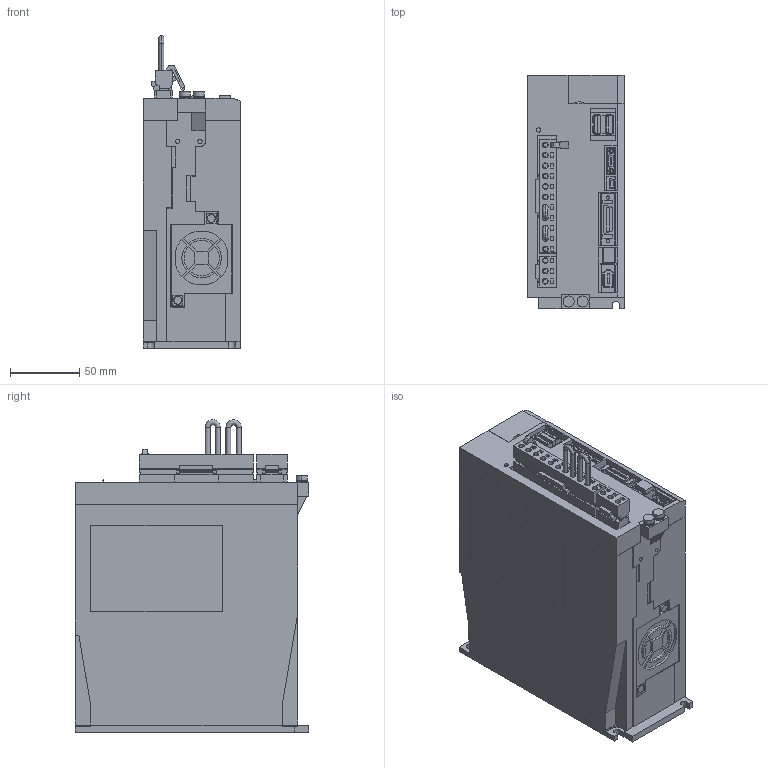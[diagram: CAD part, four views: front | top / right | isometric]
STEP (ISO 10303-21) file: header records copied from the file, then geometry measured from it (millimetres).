
FILE_DESCRIPTION (( 'STEP AP203' ), '1' );
FILE_NAME ('sgd7s_7r6a10a.STEP', '2014-03-06T04:31:24', ( '匠エンジニアリング山之内' ), ( 'TAKUMI-Engniaring' ), 'SwSTEP 2.0', 'SolidWorks 2006303', '' );
FILE_SCHEMA (( 'CONFIG_CONTROL_DESIGN' ));
Products named in the file (10): sgd7s_7r6a10a_pin; sgd7s_7r6a10a; sgd7s_7r6a10a_base; sgd7s_7r6a10a_connector; sgd7s_7r6a10a_connector_2; sgd7s_7r6a10a_cable; sgd7s_7r6a10a_connector_1; sgd7s_7r6a10a_cover; sgd7s_7r6a10a_cover2; sgd7s_7r6a10a_connector_3
Assembly tree (11 placements, depth 3):
  sgd7s_7r6a10a
    sgd7s_7r6a10a_base
    sgd7s_7r6a10a_cover2  x2
    sgd7s_7r6a10a_connector_1
    sgd7s_7r6a10a_connector
      sgd7s_7r6a10a_connector_2
      sgd7s_7r6a10a_cable  x2
      sgd7s_7r6a10a_pin
    sgd7s_7r6a10a_cover
    sgd7s_7r6a10a_connector_3
Bounding box: 70.5 x 168 x 225 mm (x, y, z)
Volume: 1991868.4 mm3; surface area: 151411.1 mm2
Topology: 10 solids, 10 shells, 1779 faces, 4626 edges, 3048 vertices
Faces by surface type: plane 1561, cylinder 209, cone 4, torus 4, sphere 1
Entity records: 53723 total; most frequent: CARTESIAN_POINT 9301, ORIENTED_EDGE 9092, DIRECTION 8481, EDGE_CURVE 4546, VECTOR 4129, LINE 4129, VERTEX_POINT 2996, AXIS2_PLACEMENT_3D 2176
